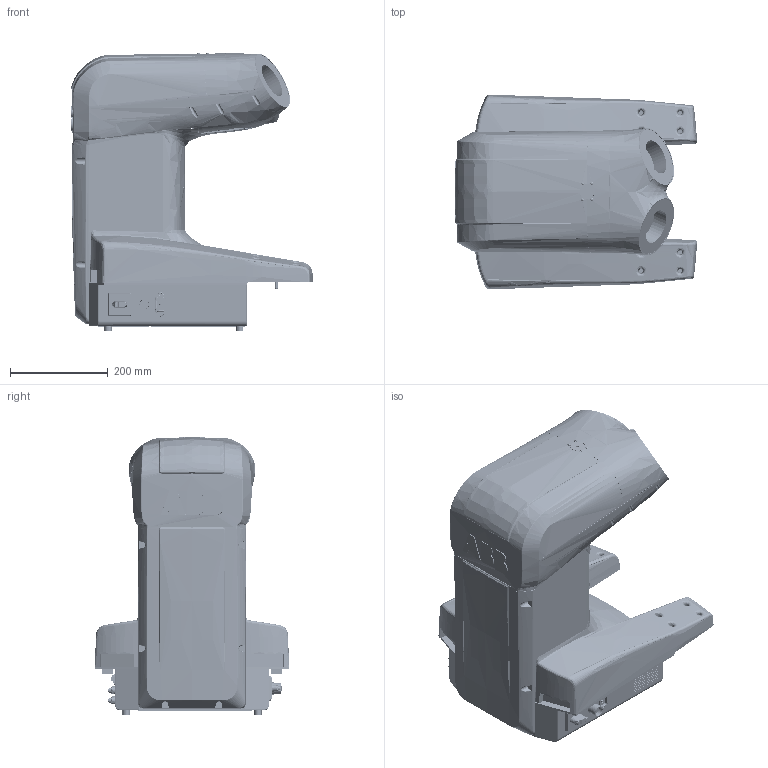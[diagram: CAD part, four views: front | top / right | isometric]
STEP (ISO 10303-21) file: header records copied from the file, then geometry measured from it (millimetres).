
FILE_DESCRIPTION (( 'STEP AP214' ), '1' );
FILE_NAME ('body3.0.STEP', '2015-02-09T09:05:05', ( 'ABB' ), ( 'ABB' ), 'SwSTEP 2.0', 'SolidWorks 2012', '' );
FILE_SCHEMA (( 'AUTOMOTIVE_DESIGN' ));
Length unit declared in the file: millimetre
Products named in the file (1): body3.0
Bounding box: 495.62 x 399.42 x 570.85 mm (x, y, z)
Volume: 45246218.6 mm3; surface area: 1072792.8 mm2
Topology: 1 solids, 1 shells, 9008 faces, 23371 edges, 15328 vertices
Faces by surface type: plane 4390, cylinder 2752, bspline 1644, cone 221, torus 1
Entity records: 538863 total; most frequent: CARTESIAN_POINT 229411, ORIENTED_EDGE 46542, DIRECTION 38897, EDGE_CURVE 23271, VERTEX_POINT 15310, AXIS2_PLACEMENT_3D 13066, LINE 12765, VECTOR 12765
